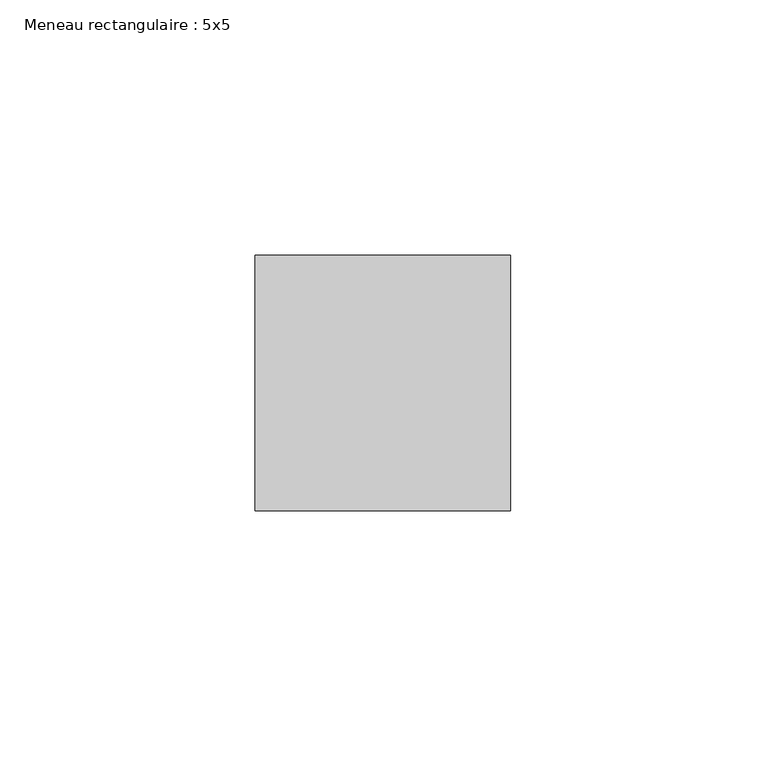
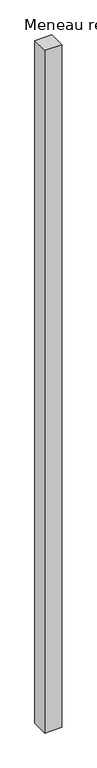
"""IFC4 building model written with IfcOpenShell, lengths in millimetres: member geometry, Meneau rectangulaire : 5x5."""

from ifc_helpers import new_model, si_unit, frame, origin, place, context, project, spatial, polyline, outline, extrude, source, transform, mapped, element, save


def meneau_rectangulaire_5x5_637ac860(model_context):
    return source(origin(), model_context, "Body", "SweptSolid", [
        extrude(outline(polyline([(25.0, 25.0), (25.0, -25.0), (-25.0, -25.0), (-25.0, 25.0), (25.0, 25.0)])), frame((0.0, 0.0, -2125.0), z_axis=(0.0, 0.0, 1.0), x_axis=(1.0, 0.0, 0.0)), (0.0, 0.0, 1.0), 2125.0),
    ])


if __name__ == "__main__":
    model = new_model("IFC4")
    model_context = context("Model", 3, world=origin())
    ifc_project = project(units=[si_unit("LENGTHUNIT", "METRE", prefix="MILLI")], contexts=[model_context])
    site = spatial("IfcSite", under=ifc_project)
    building = spatial("IfcBuilding", under=site)
    placement = place(None, origin())
    meneau_rectangulaire_5x5_shape = meneau_rectangulaire_5x5_637ac860(model_context)
    element("IfcMember", 1, ObjectType="Meneau rectangulaire : 5x5", at=placement, inside=building, context=model_context, shape_type="MappedRepresentation", body=[
        mapped(meneau_rectangulaire_5x5_shape, transform((0.0, 0.0, 0.0), x_axis=(1.0, 0.0, 0.0), y_axis=(0.0, 1.0, 0.0), z_axis=(0.0, 0.0, 1.0))),
    ])
    save(model, "model.ifc")
